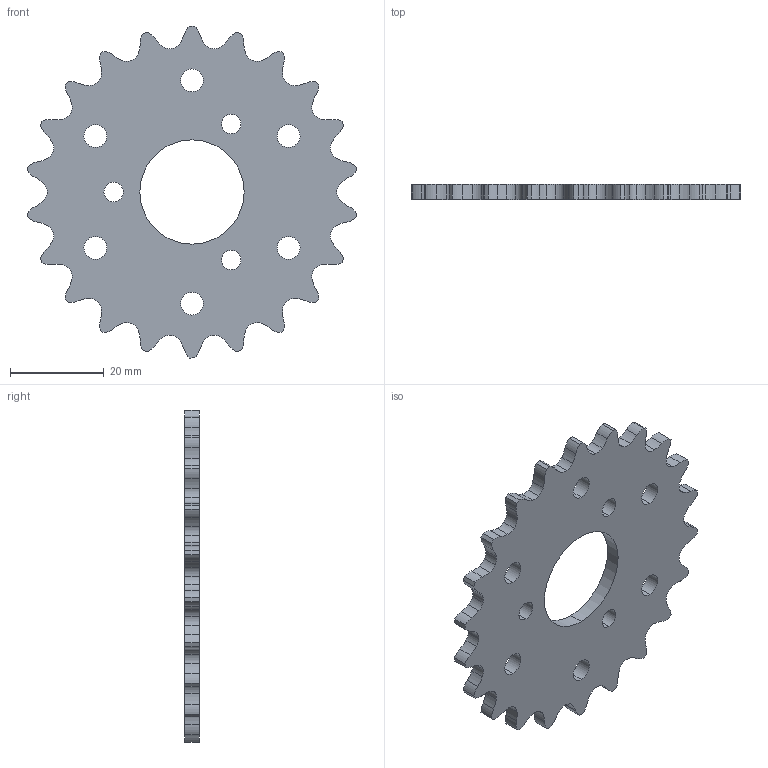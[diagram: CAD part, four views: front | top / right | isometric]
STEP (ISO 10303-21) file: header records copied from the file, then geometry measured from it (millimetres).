
FILE_DESCRIPTION (( 'STEP AP203' ), '1' );
FILE_NAME ('IFI-SPROCKET-35A22 RevB.STEP', '2007-10-25T20:03:02', ( 'Innovation First, Inc.' ), ( 'Innovation First, Inc.' ), 'SwSTEP 2.0', 'SolidWorks 2006303', '' );
FILE_SCHEMA (( 'CONFIG_CONTROL_DESIGN' ));
Length unit declared in the file: inch
Products named in the file (1): IFI-SPROCKET-35A22 RevB
Bounding box: 70.24 x 3.17 x 70.82 mm (x, y, z)
Volume: 9021.6 mm3; surface area: 7294.5 mm2
Topology: 1 solids, 1 shells, 188 faces, 558 edges, 372 vertices
Faces by surface type: cylinder 164, plane 24
Entity records: 6609 total; most frequent: DIRECTION 1264, CARTESIAN_POINT 1119, ORIENTED_EDGE 1116, EDGE_CURVE 558, AXIS2_PLACEMENT_3D 517, VERTEX_POINT 372, CIRCLE 328, VECTOR 230
